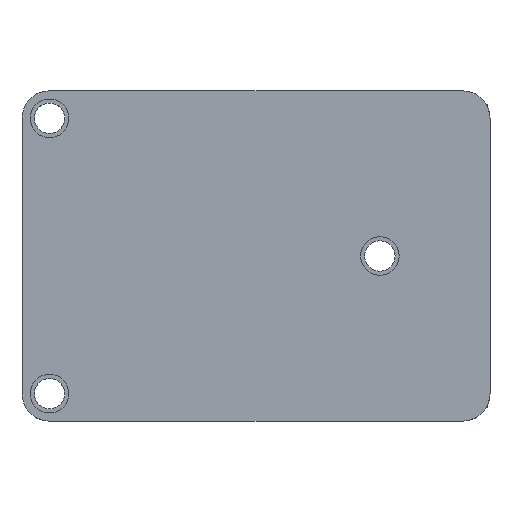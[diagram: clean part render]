
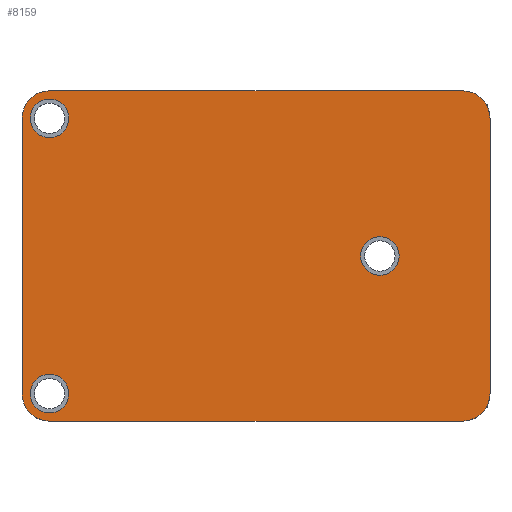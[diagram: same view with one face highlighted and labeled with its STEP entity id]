
A CAD part, top view. The second image highlights one B-rep face of the part: STEP entity #8159.
In plain terms, the highlighted planar face has unit normal (0, 0, 1).
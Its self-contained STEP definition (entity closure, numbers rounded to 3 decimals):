
#96 = DIRECTION ( 'NONE',  ( 0., 0., 1. ) ) ;
#188 = ORIENTED_EDGE ( 'NONE', *, *, #14433, .F. ) ;
#335 = AXIS2_PLACEMENT_3D ( 'NONE', #1866, #598, #14022 ) ;
#412 = EDGE_CURVE ( 'NONE', #14124, #3174, #1360, .T. ) ;
#488 = ORIENTED_EDGE ( 'NONE', *, *, #13195, .F. ) ;
#495 = DIRECTION ( 'NONE',  ( 0., -1., 0. ) ) ;
#598 = DIRECTION ( 'NONE',  ( 0., 0., 1. ) ) ;
#730 = CARTESIAN_POINT ( 'NONE',  ( -61.613, 22.297, 1.295 ) ) ;
#918 = FACE_BOUND ( 'NONE', #9771, .T. ) ;
#1043 = DIRECTION ( 'NONE',  ( 0., 0., 1. ) ) ;
#1145 = DIRECTION ( 'NONE',  ( 1., 0., 0. ) ) ;
#1150 = CIRCLE ( 'NONE', #9139, 2. ) ;
#1211 = CARTESIAN_POINT ( 'NONE',  ( -63.013, 2.297, 1.295 ) ) ;
#1231 = EDGE_CURVE ( 'NONE', #9653, #9148, #1150, .T. ) ;
#1269 = CARTESIAN_POINT ( 'NONE',  ( -46.613, 0.297, 1.295 ) ) ;
#1360 = CIRCLE ( 'NONE', #4725, 1.4 ) ;
#1466 = VERTEX_POINT ( 'NONE', #2557 ) ;
#1654 = VERTEX_POINT ( 'NONE', #5360 ) ;
#1756 = CARTESIAN_POINT ( 'NONE',  ( -37.613, 12.297, 1.295 ) ) ;
#1762 = EDGE_CURVE ( 'NONE', #15726, #1654, #6976, .T. ) ;
#1855 = CIRCLE ( 'NONE', #5814, 1.4 ) ;
#1866 = CARTESIAN_POINT ( 'NONE',  ( -61.613, 2.297, 1.295 ) ) ;
#1925 = CARTESIAN_POINT ( 'NONE',  ( -36.213, 12.297, 1.295 ) ) ;
#2057 = CIRCLE ( 'NONE', #11077, 2. ) ;
#2232 = CIRCLE ( 'NONE', #6023, 1.4 ) ;
#2309 = EDGE_CURVE ( 'NONE', #5077, #12049, #3541, .T. ) ;
#2557 = CARTESIAN_POINT ( 'NONE',  ( -60.213, 22.297, 1.295 ) ) ;
#2757 = CARTESIAN_POINT ( 'NONE',  ( -61.613, 22.297, 1.295 ) ) ;
#2967 = CARTESIAN_POINT ( 'NONE',  ( -46.613, 12.297, 1.295 ) ) ;
#2973 = CARTESIAN_POINT ( 'NONE',  ( -63.613, 12.297, 1.295 ) ) ;
#3000 = DIRECTION ( 'NONE',  ( 0., -1., 0. ) ) ;
#3046 = VECTOR ( 'NONE', #495, 1000. ) ;
#3047 = AXIS2_PLACEMENT_3D ( 'NONE', #2967, #11476, #12759 ) ;
#3081 = ORIENTED_EDGE ( 'NONE', *, *, #5767, .F. ) ;
#3174 = VERTEX_POINT ( 'NONE', #15660 ) ;
#3541 = CIRCLE ( 'NONE', #15709, 2. ) ;
#3632 = DIRECTION ( 'NONE',  ( 1., 0., 0. ) ) ;
#3874 = CARTESIAN_POINT ( 'NONE',  ( -61.613, 22.297, 1.295 ) ) ;
#4023 = DIRECTION ( 'NONE',  ( 1., 0., 0. ) ) ;
#4359 = CIRCLE ( 'NONE', #13629, 1.4 ) ;
#4494 = ORIENTED_EDGE ( 'NONE', *, *, #8124, .F. ) ;
#4577 = ORIENTED_EDGE ( 'NONE', *, *, #10164, .T. ) ;
#4599 = ORIENTED_EDGE ( 'NONE', *, *, #2309, .T. ) ;
#4620 = EDGE_LOOP ( 'NONE', ( #7654, #7352, #10045, #4577, #10443, #12731, #4599, #6552 ) ) ;
#4725 = AXIS2_PLACEMENT_3D ( 'NONE', #7955, #11628, #14110 ) ;
#4785 = EDGE_LOOP ( 'NONE', ( #4494, #7650 ) ) ;
#5077 = VERTEX_POINT ( 'NONE', #14924 ) ;
#5360 = CARTESIAN_POINT ( 'NONE',  ( -61.613, 0.297, 1.295 ) ) ;
#5767 = EDGE_CURVE ( 'NONE', #6625, #8498, #15044, .T. ) ;
#5814 = AXIS2_PLACEMENT_3D ( 'NONE', #3874, #8739, #13560 ) ;
#5995 = EDGE_CURVE ( 'NONE', #5077, #14533, #12769, .T. ) ;
#6023 = AXIS2_PLACEMENT_3D ( 'NONE', #1756, #12652, #11374 ) ;
#6204 = DIRECTION ( 'NONE',  ( 1., 0., 0. ) ) ;
#6552 = ORIENTED_EDGE ( 'NONE', *, *, #9085, .F. ) ;
#6625 = VERTEX_POINT ( 'NONE', #8915 ) ;
#6976 = CIRCLE ( 'NONE', #335, 2. ) ;
#7352 = ORIENTED_EDGE ( 'NONE', *, *, #12260, .T. ) ;
#7386 = CIRCLE ( 'NONE', #12603, 1.4 ) ;
#7650 = ORIENTED_EDGE ( 'NONE', *, *, #412, .F. ) ;
#7654 = ORIENTED_EDGE ( 'NONE', *, *, #1231, .F. ) ;
#7689 = EDGE_LOOP ( 'NONE', ( #488, #3081 ) ) ;
#7817 = CARTESIAN_POINT ( 'NONE',  ( -29.613, 2.297, 1.295 ) ) ;
#7955 = CARTESIAN_POINT ( 'NONE',  ( -37.613, 12.297, 1.295 ) ) ;
#8124 = EDGE_CURVE ( 'NONE', #3174, #14124, #2232, .T. ) ;
#8159 = ADVANCED_FACE ( 'NONE', ( #15729, #10963, #918, #12891 ), #12704, .T. ) ;
#8361 = CARTESIAN_POINT ( 'NONE',  ( -31.613, 24.297, 1.295 ) ) ;
#8498 = VERTEX_POINT ( 'NONE', #1211 ) ;
#8739 = DIRECTION ( 'NONE',  ( 0., 0., 1. ) ) ;
#8807 = LINE ( 'NONE', #1269, #13021 ) ;
#8915 = CARTESIAN_POINT ( 'NONE',  ( -60.213, 2.297, 1.295 ) ) ;
#8970 = VERTEX_POINT ( 'NONE', #11874 ) ;
#9085 = EDGE_CURVE ( 'NONE', #9148, #12049, #12675, .T. ) ;
#9139 = AXIS2_PLACEMENT_3D ( 'NONE', #730, #10420, #12991 ) ;
#9148 = VERTEX_POINT ( 'NONE', #14550 ) ;
#9254 = VERTEX_POINT ( 'NONE', #14755 ) ;
#9351 = CARTESIAN_POINT ( 'NONE',  ( -31.613, 22.297, 1.295 ) ) ;
#9418 = VECTOR ( 'NONE', #1145, 1000. ) ;
#9617 = CARTESIAN_POINT ( 'NONE',  ( -46.613, 24.297, 1.295 ) ) ;
#9653 = VERTEX_POINT ( 'NONE', #11747 ) ;
#9748 = DIRECTION ( 'NONE',  ( 1., 0., 0. ) ) ;
#9771 = EDGE_LOOP ( 'NONE', ( #13049, #188 ) ) ;
#9886 = LINE ( 'NONE', #2973, #3046 ) ;
#9913 = CARTESIAN_POINT ( 'NONE',  ( -31.613, 2.297, 1.295 ) ) ;
#10045 = ORIENTED_EDGE ( 'NONE', *, *, #1762, .T. ) ;
#10164 = EDGE_CURVE ( 'NONE', #1654, #9254, #8807, .T. ) ;
#10266 = VECTOR ( 'NONE', #3000, 1000. ) ;
#10420 = DIRECTION ( 'NONE',  ( 0., 0., -1. ) ) ;
#10443 = ORIENTED_EDGE ( 'NONE', *, *, #13715, .F. ) ;
#10963 = FACE_OUTER_BOUND ( 'NONE', #4620, .T. ) ;
#11077 = AXIS2_PLACEMENT_3D ( 'NONE', #9913, #11312, #4023 ) ;
#11312 = DIRECTION ( 'NONE',  ( 0., 0., -1. ) ) ;
#11374 = DIRECTION ( 'NONE',  ( 1., 0., 0. ) ) ;
#11392 = CARTESIAN_POINT ( 'NONE',  ( -63.613, 2.297, 1.295 ) ) ;
#11476 = DIRECTION ( 'NONE',  ( 0., 0., 1. ) ) ;
#11628 = DIRECTION ( 'NONE',  ( 0., 0., 1. ) ) ;
#11747 = CARTESIAN_POINT ( 'NONE',  ( -63.613, 22.297, 1.295 ) ) ;
#11874 = CARTESIAN_POINT ( 'NONE',  ( -63.013, 22.297, 1.295 ) ) ;
#12049 = VERTEX_POINT ( 'NONE', #8361 ) ;
#12260 = EDGE_CURVE ( 'NONE', #9653, #15726, #9886, .T. ) ;
#12494 = DIRECTION ( 'NONE',  ( 1., 0., 0. ) ) ;
#12569 = EDGE_CURVE ( 'NONE', #8970, #1466, #7386, .T. ) ;
#12603 = AXIS2_PLACEMENT_3D ( 'NONE', #2757, #13504, #12494 ) ;
#12652 = DIRECTION ( 'NONE',  ( 0., 0., 1. ) ) ;
#12675 = LINE ( 'NONE', #9617, #9418 ) ;
#12704 = PLANE ( 'NONE',  #3047 ) ;
#12731 = ORIENTED_EDGE ( 'NONE', *, *, #5995, .F. ) ;
#12759 = DIRECTION ( 'NONE',  ( 1., 0., 0. ) ) ;
#12769 = LINE ( 'NONE', #13999, #10266 ) ;
#12891 = FACE_BOUND ( 'NONE', #7689, .T. ) ;
#12991 = DIRECTION ( 'NONE',  ( 1., 0., 0. ) ) ;
#13021 = VECTOR ( 'NONE', #3632, 1000. ) ;
#13040 = DIRECTION ( 'NONE',  ( 1., 0., 0. ) ) ;
#13049 = ORIENTED_EDGE ( 'NONE', *, *, #12569, .F. ) ;
#13195 = EDGE_CURVE ( 'NONE', #8498, #6625, #4359, .T. ) ;
#13444 = CARTESIAN_POINT ( 'NONE',  ( -61.613, 2.297, 1.295 ) ) ;
#13491 = DIRECTION ( 'NONE',  ( 0., 0., 1. ) ) ;
#13504 = DIRECTION ( 'NONE',  ( 0., 0., 1. ) ) ;
#13560 = DIRECTION ( 'NONE',  ( 1., 0., 0. ) ) ;
#13629 = AXIS2_PLACEMENT_3D ( 'NONE', #14523, #96, #6204 ) ;
#13715 = EDGE_CURVE ( 'NONE', #14533, #9254, #2057, .T. ) ;
#13999 = CARTESIAN_POINT ( 'NONE',  ( -29.613, 12.297, 1.295 ) ) ;
#14022 = DIRECTION ( 'NONE',  ( 1., 0., 0. ) ) ;
#14024 = AXIS2_PLACEMENT_3D ( 'NONE', #13444, #13491, #9748 ) ;
#14110 = DIRECTION ( 'NONE',  ( 1., 0., 0. ) ) ;
#14124 = VERTEX_POINT ( 'NONE', #1925 ) ;
#14433 = EDGE_CURVE ( 'NONE', #1466, #8970, #1855, .T. ) ;
#14523 = CARTESIAN_POINT ( 'NONE',  ( -61.613, 2.297, 1.295 ) ) ;
#14533 = VERTEX_POINT ( 'NONE', #7817 ) ;
#14550 = CARTESIAN_POINT ( 'NONE',  ( -61.613, 24.297, 1.295 ) ) ;
#14755 = CARTESIAN_POINT ( 'NONE',  ( -31.613, 0.297, 1.295 ) ) ;
#14924 = CARTESIAN_POINT ( 'NONE',  ( -29.613, 22.297, 1.295 ) ) ;
#15044 = CIRCLE ( 'NONE', #14024, 1.4 ) ;
#15660 = CARTESIAN_POINT ( 'NONE',  ( -39.013, 12.297, 1.295 ) ) ;
#15709 = AXIS2_PLACEMENT_3D ( 'NONE', #9351, #1043, #13040 ) ;
#15726 = VERTEX_POINT ( 'NONE', #11392 ) ;
#15729 = FACE_BOUND ( 'NONE', #4785, .T. ) ;
